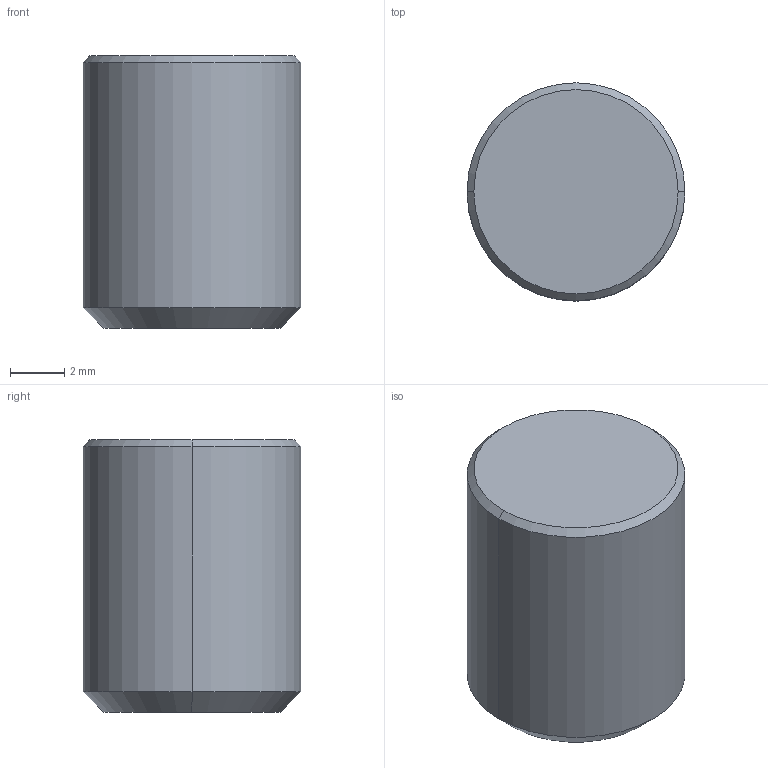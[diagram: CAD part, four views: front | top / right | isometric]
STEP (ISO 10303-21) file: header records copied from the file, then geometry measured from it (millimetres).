
FILE_DESCRIPTION (( 'STEP AP203' ), '1' );
FILE_NAME ('srp-080.STEP', '2021-10-25T04:28:03', ( '' ), ( '' ), 'SwSTEP 2.0', 'SolidWorks 2020', '' );
FILE_SCHEMA (( 'CONFIG_CONTROL_DESIGN' ));
Length unit declared in the file: millimetre
Products named in the file (1): srp-080
Bounding box: 8 x 8 x 10 mm (x, y, z)
Volume: 432.3 mm3; surface area: 399 mm2
Topology: 1 solids, 1 shells, 11 faces, 20 edges, 12 vertices
Faces by surface type: cylinder 4, cone 4, plane 3
Entity records: 351 total; most frequent: DIRECTION 56, CARTESIAN_POINT 44, ORIENTED_EDGE 40, AXIS2_PLACEMENT_3D 24, EDGE_CURVE 20, EDGE_LOOP 12, VERTEX_POINT 12, CIRCLE 12
